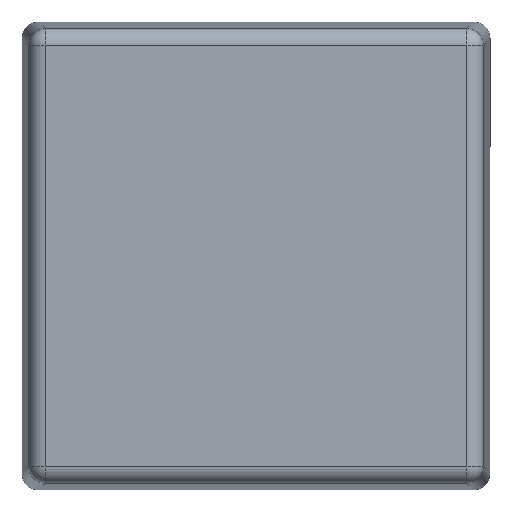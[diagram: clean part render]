
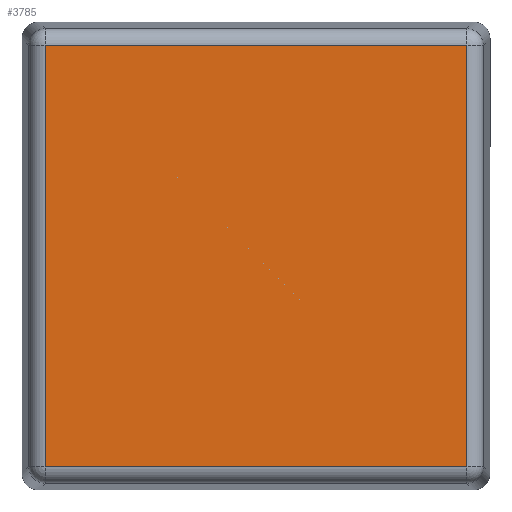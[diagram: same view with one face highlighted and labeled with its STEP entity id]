
A CAD part, front view. The second image highlights one B-rep face of the part: STEP entity #3785.
In plain terms, the highlighted planar face has unit normal (0, -1, 0).
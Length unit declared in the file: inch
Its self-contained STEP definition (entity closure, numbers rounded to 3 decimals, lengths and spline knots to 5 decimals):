
#260 = VECTOR ( 'NONE', #8516, 39.37008 ) ;
#261 = LINE ( 'NONE', #8517, #260 ) ;
#262 = VECTOR ( 'NONE', #8690, 39.37008 ) ;
#264 = LINE ( 'NONE', #8693, #262 ) ;
#271 = VECTOR ( 'NONE', #8767, 39.37008 ) ;
#274 = LINE ( 'NONE', #8768, #271 ) ;
#275 = VECTOR ( 'NONE', #8401, 39.37008 ) ;
#285 = LINE ( 'NONE', #8402, #275 ) ;
#669 = ORIENTED_EDGE ( 'NONE', *, *, #2108, .T. ) ;
#670 = ORIENTED_EDGE ( 'NONE', *, *, #2104, .T. ) ;
#671 = ORIENTED_EDGE ( 'NONE', *, *, #2110, .T. ) ;
#672 = ORIENTED_EDGE ( 'NONE', *, *, #2111, .T. ) ;
#2104 = EDGE_CURVE ( 'NONE', #4024, #4017, #285, .T. ) ;
#2108 = EDGE_CURVE ( 'NONE', #4094, #4024, #274, .T. ) ;
#2110 = EDGE_CURVE ( 'NONE', #4017, #4008, #264, .T. ) ;
#2111 = EDGE_CURVE ( 'NONE', #4008, #4094, #261, .T. ) ;
#2581 = DIRECTION ( 'NONE',  ( 0., 0., -1. ) ) ;
#2582 = DIRECTION ( 'NONE',  ( 0., -1., 0. ) ) ;
#2642 = CARTESIAN_POINT ( 'NONE',  ( 1.5475, -1.505, 1.5475 ) ) ;
#2682 = PLANE ( 'NONE',  #8089 ) ;
#3785 = ADVANCED_FACE ( 'NONE', ( #8134 ), #2682, .T. ) ;
#4008 = VERTEX_POINT ( 'NONE', #5706 ) ;
#4017 = VERTEX_POINT ( 'NONE', #5695 ) ;
#4024 = VERTEX_POINT ( 'NONE', #5686 ) ;
#4094 = VERTEX_POINT ( 'NONE', #5602 ) ;
#5602 = CARTESIAN_POINT ( 'NONE',  ( 1.39335, -1.505, -1.39335 ) ) ;
#5686 = CARTESIAN_POINT ( 'NONE',  ( 1.39335, -1.505, 1.39335 ) ) ;
#5695 = CARTESIAN_POINT ( 'NONE',  ( -1.39335, -1.505, 1.39335 ) ) ;
#5706 = CARTESIAN_POINT ( 'NONE',  ( -1.39335, -1.505, -1.39335 ) ) ;
#6823 = EDGE_LOOP ( 'NONE', ( #669, #670, #671, #672 ) ) ;
#8089 = AXIS2_PLACEMENT_3D ( 'NONE', #2642, #2582, #2581 ) ;
#8134 = FACE_OUTER_BOUND ( 'NONE', #6823, .T. ) ;
#8401 = DIRECTION ( 'NONE',  ( -1., 0., 0. ) ) ;
#8402 = CARTESIAN_POINT ( 'NONE',  ( 1.5475, -1.505, 1.39335 ) ) ;
#8516 = DIRECTION ( 'NONE',  ( 1., 0., 0. ) ) ;
#8517 = CARTESIAN_POINT ( 'NONE',  ( 1.5475, -1.505, -1.39335 ) ) ;
#8690 = DIRECTION ( 'NONE',  ( 0., 0., -1. ) ) ;
#8693 = CARTESIAN_POINT ( 'NONE',  ( -1.39335, -1.505, 1.5475 ) ) ;
#8767 = DIRECTION ( 'NONE',  ( 0., 0., 1. ) ) ;
#8768 = CARTESIAN_POINT ( 'NONE',  ( 1.39335, -1.505, 1.5475 ) ) ;
